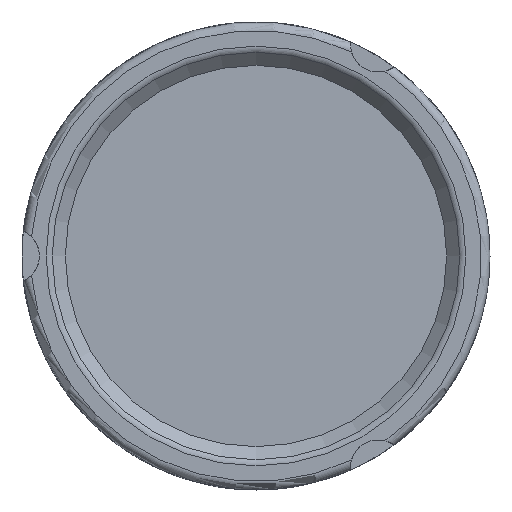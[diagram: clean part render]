
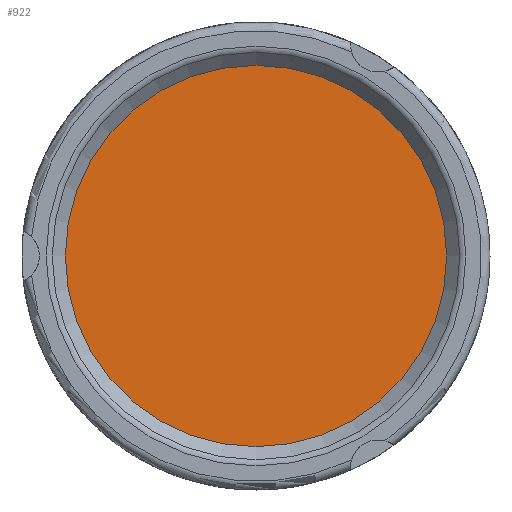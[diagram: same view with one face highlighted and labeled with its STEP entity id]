
A CAD part, left-side view. The second image highlights one B-rep face of the part: STEP entity #922.
In plain terms, the highlighted planar face has unit normal (-1, 0, 0).
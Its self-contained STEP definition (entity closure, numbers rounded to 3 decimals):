
#253=FACE_OUTER_BOUND('',#330,.T.);
#330=EDGE_LOOP('',(#851));
#387=CIRCLE('',#1062,12.2);
#471=VERTEX_POINT('',#2180);
#598=EDGE_CURVE('',#471,#471,#387,.T.);
#851=ORIENTED_EDGE('',*,*,#598,.F.);
#861=PLANE('',#1063);
#922=ADVANCED_FACE('',(#253),#861,.F.);
#1062=AXIS2_PLACEMENT_3D('',#2182,#1334,#1335);
#1063=AXIS2_PLACEMENT_3D('',#2183,#1336,#1337);
#1334=DIRECTION('center_axis',(1.,0.,0.));
#1335=DIRECTION('ref_axis',(0.,0.,-1.));
#1336=DIRECTION('center_axis',(1.,0.,0.));
#1337=DIRECTION('ref_axis',(0.,0.,-1.));
#2180=CARTESIAN_POINT('',(-21.2,0.,12.2));
#2182=CARTESIAN_POINT('Origin',(-21.2,0.,0.));
#2183=CARTESIAN_POINT('Origin',(-21.2,0.,0.));
